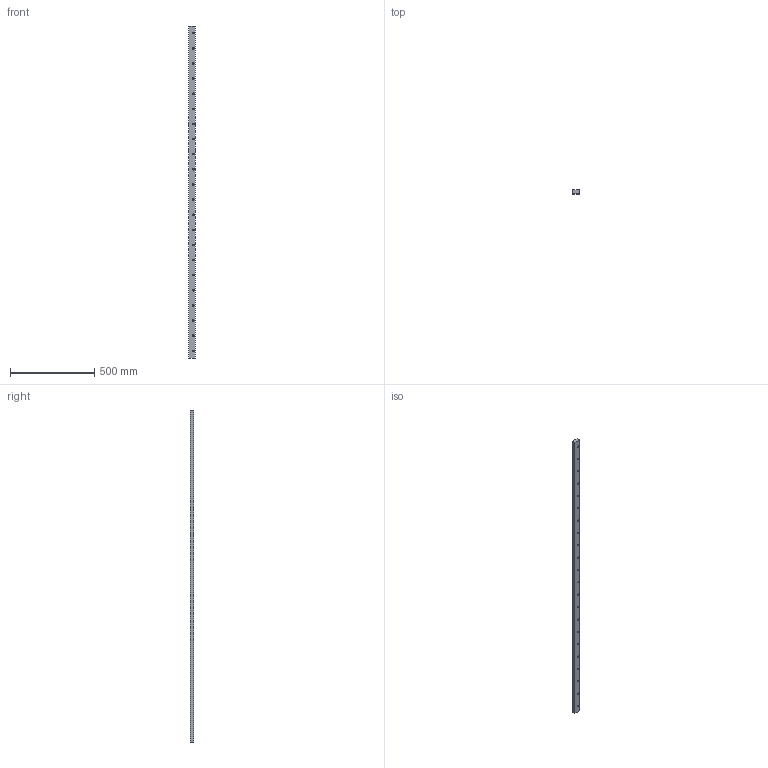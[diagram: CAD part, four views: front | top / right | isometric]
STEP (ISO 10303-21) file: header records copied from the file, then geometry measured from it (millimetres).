
FILE_DESCRIPTION(('STEP AP203'),'1');
FILE_NAME('track_ft4020l1976p3.stp','2022-07-04T01:40:57',('TraceParts'),('TraceParts S.A.'),'Spatial InterOp 3D',' ',' ');
FILE_SCHEMA(('CONFIG_CONTROL_DESIGN'));
Length unit declared in the file: millimetre
Products named in the file (1): 1
Bounding box: 40.4 x 20.4 x 1976 mm (x, y, z)
Volume: 1578660.9 mm3; surface area: 252358.3 mm2
Topology: 1 solids, 1 shells, 120 faces, 288 edges, 192 vertices
Faces by surface type: cylinder 88, plane 32
Entity records: 3720 total; most frequent: DIRECTION 706, CARTESIAN_POINT 601, ORIENTED_EDGE 576, AXIS2_PLACEMENT_3D 297, EDGE_CURVE 288, VERTEX_POINT 192, EDGE_LOOP 186, CIRCLE 176
